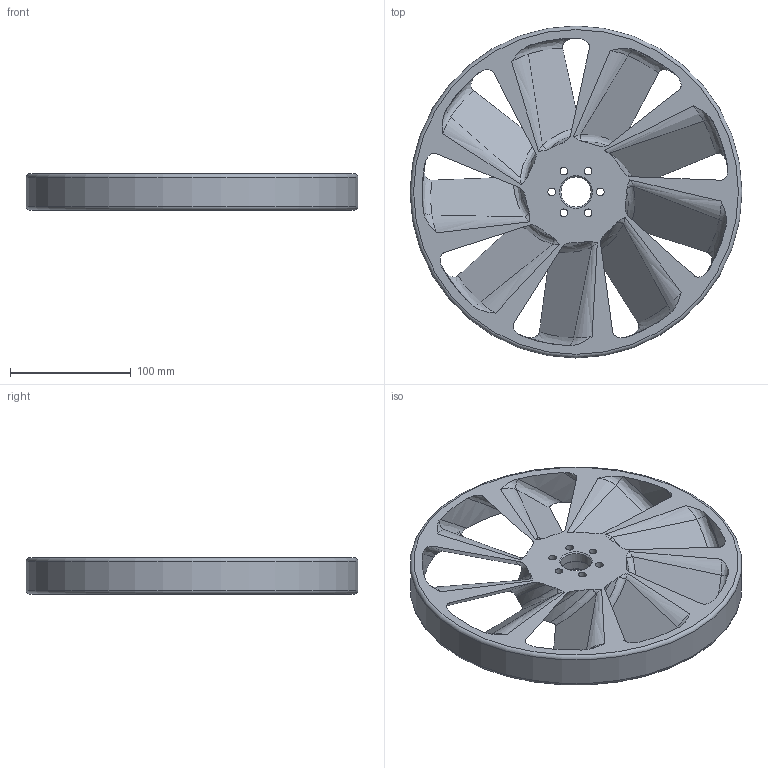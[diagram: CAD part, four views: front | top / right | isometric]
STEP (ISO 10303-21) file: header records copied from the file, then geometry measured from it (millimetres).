
FILE_DESCRIPTION((''),'2;1');
FILE_NAME('C:\Users\User\Desktop\Mastercam-harjoitukset\Mastercam_Multiaxis_5.stp','2020-04-17T23:23:25',(''),(''),'STEP Write','Mastercam 2020 ... CNC Software, Inc.','');
FILE_SCHEMA(('AUTOMOTIVE_DESIGN'));
Length unit declared in the file: millimetre
Products named in the file (1): None
Bounding box: 275 x 275 x 30 mm (x, y, z)
Volume: 761291.9 mm3; surface area: 171079.1 mm2
Topology: 1 solids, 1 shells, 150 faces, 408 edges, 261 vertices
Faces by surface type: bspline 88, plane 27, cylinder 20, cone 13, torus 2
Full cylindrical faces by diameter (mm): 6.5 x6, 25 x1, 60 x1, 275 x1
Entity records: 12617 total; most frequent: CARTESIAN_POINT 9340, ORIENTED_EDGE 776, DIRECTION 446, EDGE_CURVE 388, VERTEX_POINT 254, EDGE_LOOP 196, AXIS2_PLACEMENT_3D 188, B_SPLINE_CURVE_WITH_KNOTS 168
